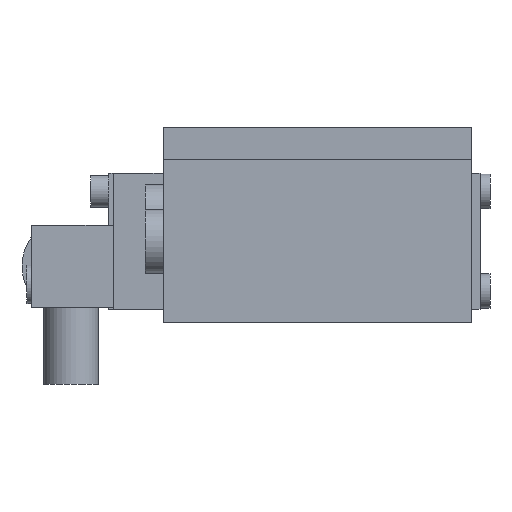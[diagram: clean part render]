
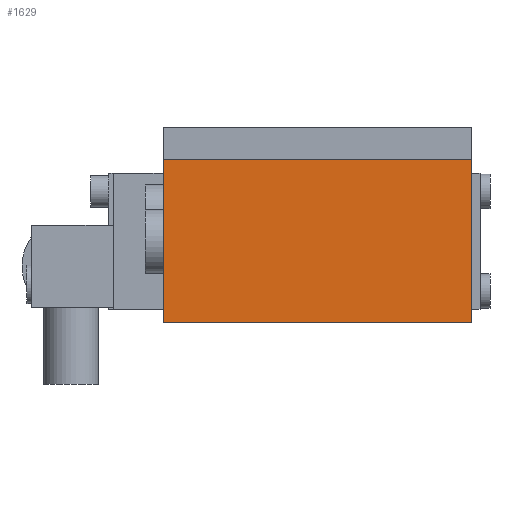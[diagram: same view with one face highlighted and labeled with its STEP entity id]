
A CAD part, front view. The second image highlights one B-rep face of the part: STEP entity #1629.
In plain terms, the highlighted planar face has unit normal (0, -1, 0).
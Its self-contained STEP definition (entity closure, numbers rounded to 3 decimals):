
#1505=CARTESIAN_POINT('',(-34.,-62.0,-21.5));
#1506=VERTEX_POINT('',#1505);
#1507=CARTESIAN_POINT('',(-34.,-62.0,14.5));
#1508=VERTEX_POINT('',#1507);
#1509=CARTESIAN_POINT('',(-34.,-62.0,-21.5));
#1510=DIRECTION('',(0.0,0.0,1.0));
#1511=VECTOR('',#1510,36.);
#1512=LINE('',#1509,#1511);
#1513=EDGE_CURVE('',#1506,#1508,#1512,.T.);
#1547=CARTESIAN_POINT('',(34.,-62.0,14.5));
#1548=VERTEX_POINT('',#1547);
#1549=CARTESIAN_POINT('',(34.,-62.0,14.5));
#1550=DIRECTION('',(-1.0,0.0,0.0));
#1551=VECTOR('',#1550,68.0);
#1552=LINE('',#1549,#1551);
#1553=EDGE_CURVE('',#1548,#1508,#1552,.T.);
#1571=CARTESIAN_POINT('',(34.,-62.0,-21.5));
#1572=VERTEX_POINT('',#1571);
#1573=CARTESIAN_POINT('',(34.,-62.0,14.5));
#1574=DIRECTION('',(0.0,0.0,-1.0));
#1575=VECTOR('',#1574,36.);
#1576=LINE('',#1573,#1575);
#1577=EDGE_CURVE('',#1548,#1572,#1576,.T.);
#1606=CARTESIAN_POINT('',(-34.,-62.0,-21.5));
#1607=DIRECTION('',(1.0,0.0,0.0));
#1608=VECTOR('',#1607,68.);
#1609=LINE('',#1606,#1608);
#1610=EDGE_CURVE('',#1506,#1572,#1609,.T.);
#1618=CARTESIAN_POINT('',(-34.,-62.0,14.5));
#1619=DIRECTION('',(0.0,-1.0,0.0));
#1620=DIRECTION('',(-1.0,0.0,0.0));
#1621=AXIS2_PLACEMENT_3D('',#1618,#1619,#1620);
#1622=PLANE('',#1621);
#1623=ORIENTED_EDGE('',*,*,#1513,.F.);
#1624=ORIENTED_EDGE('',*,*,#1610,.T.);
#1625=ORIENTED_EDGE('',*,*,#1577,.F.);
#1626=ORIENTED_EDGE('',*,*,#1553,.T.);
#1627=EDGE_LOOP('',(#1623,#1624,#1625,#1626));
#1628=FACE_OUTER_BOUND('',#1627,.T.);
#1629=ADVANCED_FACE('',(#1628),#1622,.T.);
